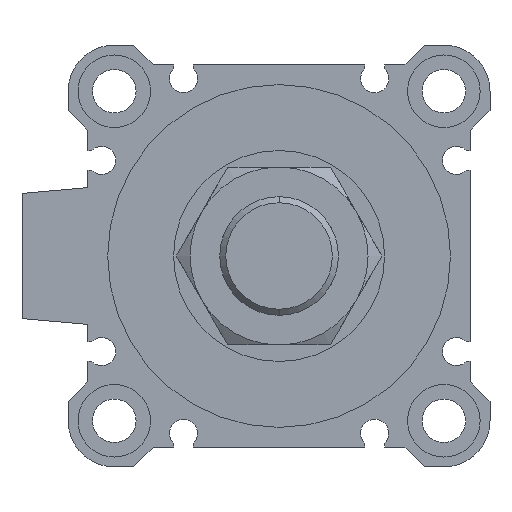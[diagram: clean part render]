
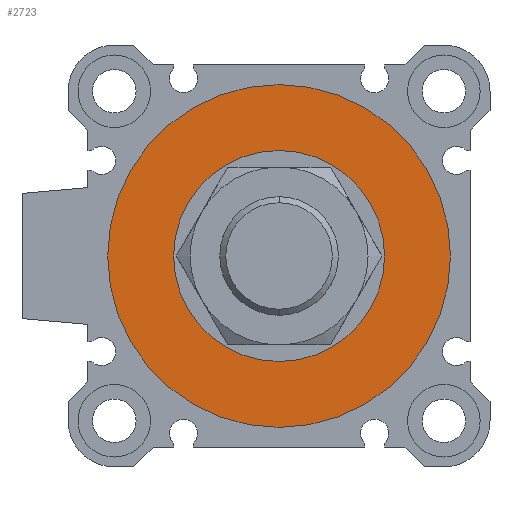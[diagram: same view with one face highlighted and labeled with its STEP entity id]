
A CAD part, left-side view. The second image highlights one B-rep face of the part: STEP entity #2723.
In plain terms, the highlighted planar face has unit normal (-1, 0, 0).
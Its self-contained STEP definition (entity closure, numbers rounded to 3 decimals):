
#19 = CARTESIAN_POINT ( 'NONE',  ( 3., 0., 0. ) ) ;
#619 = EDGE_CURVE ( 'NONE', #3996, #6473, #2748, .T. ) ;
#843 = DIRECTION ( 'NONE',  ( 1., 0., 0. ) ) ;
#858 = DIRECTION ( 'NONE',  ( 0., 0., -1. ) ) ;
#1143 = VERTEX_POINT ( 'NONE', #2622 ) ;
#1233 = AXIS2_PLACEMENT_3D ( 'NONE', #2878, #3564, #6825 ) ;
#1253 = AXIS2_PLACEMENT_3D ( 'NONE', #1964, #843, #4830 ) ;
#1451 = FACE_OUTER_BOUND ( 'NONE', #4067, .T. ) ;
#1464 = DIRECTION ( 'NONE',  ( 1., 0., 0. ) ) ;
#1644 = DIRECTION ( 'NONE',  ( 1., 0., 0. ) ) ;
#1698 = ORIENTED_EDGE ( 'NONE', *, *, #2076, .T. ) ;
#1924 = PLANE ( 'NONE',  #1253 ) ;
#1964 = CARTESIAN_POINT ( 'NONE',  ( 3., 0., 0. ) ) ;
#2076 = EDGE_CURVE ( 'NONE', #1143, #2134, #5998, .T. ) ;
#2134 = VERTEX_POINT ( 'NONE', #4008 ) ;
#2244 = DIRECTION ( 'NONE',  ( 0., 0., -1. ) ) ;
#2496 = CARTESIAN_POINT ( 'NONE',  ( 3., 0., 26. ) ) ;
#2547 = ORIENTED_EDGE ( 'NONE', *, *, #4656, .T. ) ;
#2622 = CARTESIAN_POINT ( 'NONE',  ( 3., 0., 16. ) ) ;
#2723 = ADVANCED_FACE ( 'NONE', ( #1451, #6463 ), #1924, .F. ) ;
#2748 = CIRCLE ( 'NONE', #1233, 26. ) ;
#2863 = AXIS2_PLACEMENT_3D ( 'NONE', #3289, #1644, #6156 ) ;
#2878 = CARTESIAN_POINT ( 'NONE',  ( 3., 0., 0. ) ) ;
#2996 = CARTESIAN_POINT ( 'NONE',  ( 3., 0., 0. ) ) ;
#3280 = AXIS2_PLACEMENT_3D ( 'NONE', #19, #7067, #2244 ) ;
#3289 = CARTESIAN_POINT ( 'NONE',  ( 3., 0., 0. ) ) ;
#3564 = DIRECTION ( 'NONE',  ( 1., 0., 0. ) ) ;
#3565 = EDGE_LOOP ( 'NONE', ( #1698, #2547 ) ) ;
#3996 = VERTEX_POINT ( 'NONE', #5089 ) ;
#4008 = CARTESIAN_POINT ( 'NONE',  ( 3., 0., -16. ) ) ;
#4037 = AXIS2_PLACEMENT_3D ( 'NONE', #2996, #1464, #858 ) ;
#4067 = EDGE_LOOP ( 'NONE', ( #4977, #6402 ) ) ;
#4656 = EDGE_CURVE ( 'NONE', #2134, #1143, #5241, .T. ) ;
#4830 = DIRECTION ( 'NONE',  ( 0., 1., 0. ) ) ;
#4977 = ORIENTED_EDGE ( 'NONE', *, *, #6511, .F. ) ;
#5089 = CARTESIAN_POINT ( 'NONE',  ( 3., 0., -26. ) ) ;
#5241 = CIRCLE ( 'NONE', #3280, 16. ) ;
#5998 = CIRCLE ( 'NONE', #2863, 16. ) ;
#6156 = DIRECTION ( 'NONE',  ( 0., 0., -1. ) ) ;
#6402 = ORIENTED_EDGE ( 'NONE', *, *, #619, .F. ) ;
#6463 = FACE_BOUND ( 'NONE', #3565, .T. ) ;
#6473 = VERTEX_POINT ( 'NONE', #2496 ) ;
#6511 = EDGE_CURVE ( 'NONE', #6473, #3996, #7166, .T. ) ;
#6825 = DIRECTION ( 'NONE',  ( 0., 0., -1. ) ) ;
#7067 = DIRECTION ( 'NONE',  ( 1., 0., 0. ) ) ;
#7166 = CIRCLE ( 'NONE', #4037, 26. ) ;
